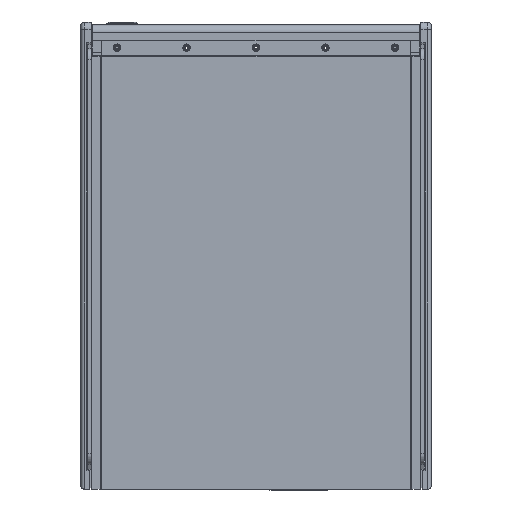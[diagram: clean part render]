
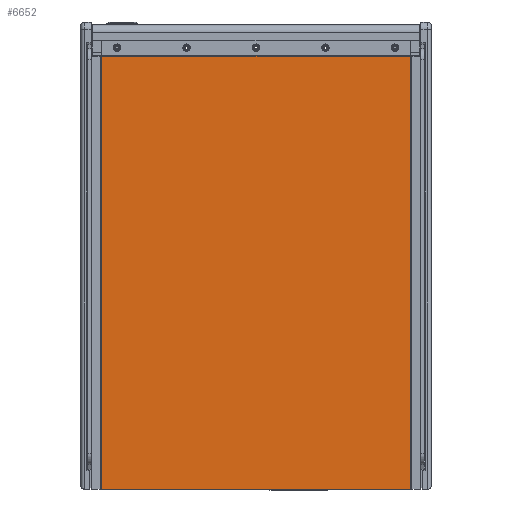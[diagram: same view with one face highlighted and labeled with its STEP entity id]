
A CAD part, front view. The second image highlights one B-rep face of the part: STEP entity #6652.
In plain terms, the highlighted planar face has unit normal (0, -1, 0) as drawn and (0, 1, 0) by its records, which use the part's own axes.
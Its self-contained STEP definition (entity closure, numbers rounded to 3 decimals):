
#336 = LINE ( 'NONE', #5243, #20239 ) ;
#855 = EDGE_LOOP ( 'NONE', ( #4881, #25100, #6422, #29527 ) ) ;
#3141 = VECTOR ( 'NONE', #21625, 1000. ) ;
#3169 = LINE ( 'NONE', #23886, #3141 ) ;
#3902 = CARTESIAN_POINT ( 'NONE',  ( -261.874, 0., 0. ) ) ;
#4881 = ORIENTED_EDGE ( 'NONE', *, *, #15977, .F. ) ;
#5232 = DIRECTION ( 'NONE',  ( 0., 0., -1. ) ) ;
#5243 = CARTESIAN_POINT ( 'NONE',  ( 270.256, 0., 0. ) ) ;
#6422 = ORIENTED_EDGE ( 'NONE', *, *, #7941, .T. ) ;
#6652 = ADVANCED_FACE ( 'Face1', ( #25514 ), #16809, .F. ) ;
#7941 = EDGE_CURVE ( 'Edge11', #13432, #29309, #24243, .T. ) ;
#9142 = VERTEX_POINT ( 'NONE', #18305 ) ;
#9324 = VECTOR ( 'NONE', #12553, 1000. ) ;
#10398 = CARTESIAN_POINT ( 'NONE',  ( 261.874, 0., 0. ) ) ;
#11019 = EDGE_CURVE ( 'NONE', #29309, #16783, #336, .T. ) ;
#12553 = DIRECTION ( 'NONE',  ( 0., 0., -1. ) ) ;
#13432 = VERTEX_POINT ( 'NONE', #21740 ) ;
#14805 = LINE ( 'NONE', #28750, #9324 ) ;
#15977 = EDGE_CURVE ( 'NONE', #9142, #16783, #14805, .T. ) ;
#16726 = EDGE_CURVE ( 'NONE', #13432, #9142, #3169, .T. ) ;
#16783 = VERTEX_POINT ( 'NONE', #3902 ) ;
#16809 = PLANE ( 'NONE',  #22109 ) ;
#18305 = CARTESIAN_POINT ( 'NONE',  ( -261.874, 0., 734.06 ) ) ;
#18619 = CARTESIAN_POINT ( 'NONE',  ( 270.256, 0., 0. ) ) ;
#19290 = DIRECTION ( 'NONE',  ( 0., 0., -1. ) ) ;
#19587 = CARTESIAN_POINT ( 'NONE',  ( 261.874, 0., 761.746 ) ) ;
#20239 = VECTOR ( 'NONE', #27775, 1000. ) ;
#21625 = DIRECTION ( 'NONE',  ( -1., 0., 0. ) ) ;
#21740 = CARTESIAN_POINT ( 'NONE',  ( 261.874, 0., 734.06 ) ) ;
#22109 = AXIS2_PLACEMENT_3D ( 'NONE', #18619, #23562, #5232 ) ;
#23562 = DIRECTION ( 'NONE',  ( 0., -1., 0. ) ) ;
#23886 = CARTESIAN_POINT ( 'NONE',  ( 270.256, 0., 734.06 ) ) ;
#24243 = LINE ( 'NONE', #19587, #26003 ) ;
#25100 = ORIENTED_EDGE ( 'NONE', *, *, #16726, .F. ) ;
#25514 = FACE_OUTER_BOUND ( 'NONE', #855, .T. ) ;
#26003 = VECTOR ( 'NONE', #19290, 1000. ) ;
#27775 = DIRECTION ( 'NONE',  ( -1., 0., 0. ) ) ;
#28750 = CARTESIAN_POINT ( 'NONE',  ( -261.874, 0., 761.746 ) ) ;
#29309 = VERTEX_POINT ( 'NONE', #10398 ) ;
#29527 = ORIENTED_EDGE ( 'NONE', *, *, #11019, .T. ) ;
